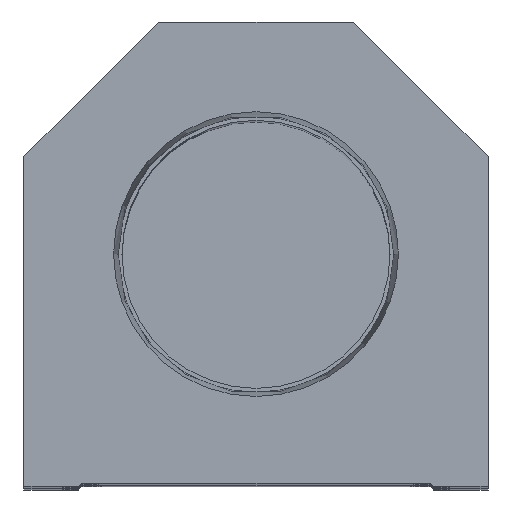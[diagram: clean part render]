
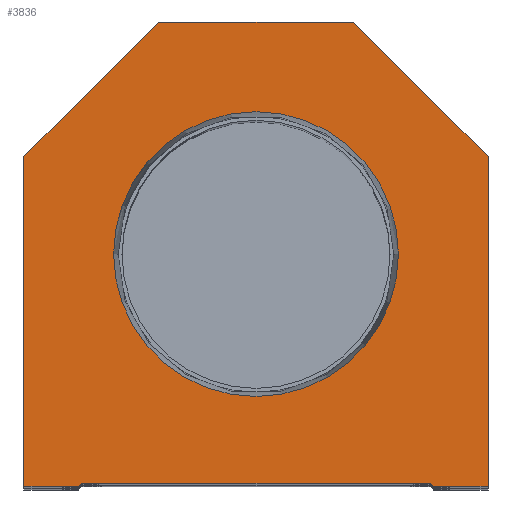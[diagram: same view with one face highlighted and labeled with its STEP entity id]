
A CAD part, top view. The second image highlights one B-rep face of the part: STEP entity #3836.
In plain terms, the highlighted planar face has unit normal (0, 0, 1).
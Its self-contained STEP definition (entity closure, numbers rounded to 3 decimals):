
#65 = VERTEX_POINT ( 'NONE', #6332 ) ;
#252 = EDGE_CURVE ( 'NONE', #2877, #14983, #7431, .T. ) ;
#339 = DIRECTION ( 'NONE',  ( 1., 0., 0. ) ) ;
#551 = CARTESIAN_POINT ( 'NONE',  ( -23.374, 38.1, 0. ) ) ;
#568 = CARTESIAN_POINT ( 'NONE',  ( 38.1, 54.1, 0. ) ) ;
#589 = LINE ( 'NONE', #3680, #20917 ) ;
#660 = ORIENTED_EDGE ( 'NONE', *, *, #252, .T. ) ;
#1237 = AXIS2_PLACEMENT_3D ( 'NONE', #15659, #2322, #8996 ) ;
#1602 = PLANE ( 'NONE',  #3268 ) ;
#2113 = EDGE_CURVE ( 'NONE', #8901, #19720, #10854, .T. ) ;
#2189 = DIRECTION ( 'NONE',  ( -1., 0., 0. ) ) ;
#2210 = VERTEX_POINT ( 'NONE', #21023 ) ;
#2236 = VECTOR ( 'NONE', #2189, 1000. ) ;
#2322 = DIRECTION ( 'NONE',  ( 0., 0., 1. ) ) ;
#2443 = ORIENTED_EDGE ( 'NONE', *, *, #4622, .T. ) ;
#2877 = VERTEX_POINT ( 'NONE', #5108 ) ;
#3032 = VECTOR ( 'NONE', #14063, 1000. ) ;
#3143 = FACE_BOUND ( 'NONE', #16087, .T. ) ;
#3238 = VERTEX_POINT ( 'NONE', #551 ) ;
#3258 = LINE ( 'NONE', #15383, #10656 ) ;
#3268 = AXIS2_PLACEMENT_3D ( 'NONE', #16358, #21773, #8158 ) ;
#3296 = LINE ( 'NONE', #20182, #11520 ) ;
#3332 = CARTESIAN_POINT ( 'NONE',  ( 38.1, 0., 0. ) ) ;
#3367 = CIRCLE ( 'NONE', #1237, 23.374 ) ;
#3464 = CARTESIAN_POINT ( 'NONE',  ( 28.6, 0.5, 0. ) ) ;
#3469 = DIRECTION ( 'NONE',  ( 1., 0., 0. ) ) ;
#3680 = CARTESIAN_POINT ( 'NONE',  ( -28.6, 0.5, 0. ) ) ;
#3836 = ADVANCED_FACE ( 'NONE', ( #3143, #11396 ), #1602, .T. ) ;
#4078 = VERTEX_POINT ( 'NONE', #20008 ) ;
#4124 = DIRECTION ( 'NONE',  ( 0.707, -0.707, 0. ) ) ;
#4163 = EDGE_LOOP ( 'NONE', ( #2443, #11064, #9628, #8359, #8391, #16019, #8807, #660, #8332, #5054 ) ) ;
#4374 = VECTOR ( 'NONE', #339, 1000. ) ;
#4622 = EDGE_CURVE ( 'NONE', #4078, #6295, #3258, .T. ) ;
#4691 = EDGE_CURVE ( 'NONE', #2210, #8901, #589, .T. ) ;
#4809 = DIRECTION ( 'NONE',  ( 0., 0., 1. ) ) ;
#4924 = DIRECTION ( 'NONE',  ( 1., 0., 0. ) ) ;
#5054 = ORIENTED_EDGE ( 'NONE', *, *, #7457, .T. ) ;
#5108 = CARTESIAN_POINT ( 'NONE',  ( 16., 76.2, 0. ) ) ;
#5204 = LINE ( 'NONE', #11840, #19870 ) ;
#5561 = LINE ( 'NONE', #13755, #10477 ) ;
#5591 = CARTESIAN_POINT ( 'NONE',  ( -29.1, 0., 0. ) ) ;
#5867 = CARTESIAN_POINT ( 'NONE',  ( -38.1, 54.1, 0. ) ) ;
#6088 = CARTESIAN_POINT ( 'NONE',  ( 14.55, 14.55, 0. ) ) ;
#6287 = EDGE_CURVE ( 'NONE', #65, #3238, #3367, .T. ) ;
#6295 = VERTEX_POINT ( 'NONE', #5591 ) ;
#6332 = CARTESIAN_POINT ( 'NONE',  ( 23.374, 38.1, 0. ) ) ;
#7431 = LINE ( 'NONE', #10421, #2236 ) ;
#7457 = EDGE_CURVE ( 'NONE', #18308, #4078, #5204, .T. ) ;
#8158 = DIRECTION ( 'NONE',  ( 1., 0., 0. ) ) ;
#8332 = ORIENTED_EDGE ( 'NONE', *, *, #14160, .T. ) ;
#8345 = LINE ( 'NONE', #3332, #14717 ) ;
#8359 = ORIENTED_EDGE ( 'NONE', *, *, #2113, .T. ) ;
#8391 = ORIENTED_EDGE ( 'NONE', *, *, #8596, .T. ) ;
#8596 = EDGE_CURVE ( 'NONE', #19720, #13140, #10473, .T. ) ;
#8807 = ORIENTED_EDGE ( 'NONE', *, *, #14108, .T. ) ;
#8901 = VERTEX_POINT ( 'NONE', #3464 ) ;
#8920 = ORIENTED_EDGE ( 'NONE', *, *, #19538, .F. ) ;
#8996 = DIRECTION ( 'NONE',  ( 1., 0., 0. ) ) ;
#9527 = EDGE_CURVE ( 'NONE', #6295, #2210, #20608, .T. ) ;
#9628 = ORIENTED_EDGE ( 'NONE', *, *, #4691, .T. ) ;
#10200 = AXIS2_PLACEMENT_3D ( 'NONE', #11558, #4809, #4924 ) ;
#10421 = CARTESIAN_POINT ( 'NONE',  ( 16., 76.2, 0. ) ) ;
#10473 = LINE ( 'NONE', #17119, #4374 ) ;
#10477 = VECTOR ( 'NONE', #10537, 1000. ) ;
#10537 = DIRECTION ( 'NONE',  ( -0.707, -0.707, 0. ) ) ;
#10595 = CARTESIAN_POINT ( 'NONE',  ( 29.1, 0., 0. ) ) ;
#10656 = VECTOR ( 'NONE', #3469, 1000. ) ;
#10854 = LINE ( 'NONE', #6088, #19813 ) ;
#11064 = ORIENTED_EDGE ( 'NONE', *, *, #9527, .T. ) ;
#11396 = FACE_OUTER_BOUND ( 'NONE', #4163, .T. ) ;
#11520 = VECTOR ( 'NONE', #18507, 1000. ) ;
#11558 = CARTESIAN_POINT ( 'NONE',  ( 0., 38.1, 0. ) ) ;
#11840 = CARTESIAN_POINT ( 'NONE',  ( -38.1, 0., 0. ) ) ;
#11845 = CARTESIAN_POINT ( 'NONE',  ( -16., 76.2, 0. ) ) ;
#13140 = VERTEX_POINT ( 'NONE', #19026 ) ;
#13722 = DIRECTION ( 'NONE',  ( 0., -1., 0. ) ) ;
#13755 = CARTESIAN_POINT ( 'NONE',  ( -38.1, 54.1, 0. ) ) ;
#14063 = DIRECTION ( 'NONE',  ( 0.707, 0.707, 0. ) ) ;
#14108 = EDGE_CURVE ( 'NONE', #19690, #2877, #3296, .T. ) ;
#14160 = EDGE_CURVE ( 'NONE', #14983, #18308, #5561, .T. ) ;
#14717 = VECTOR ( 'NONE', #15558, 1000. ) ;
#14983 = VERTEX_POINT ( 'NONE', #11845 ) ;
#15383 = CARTESIAN_POINT ( 'NONE',  ( -28.6, 0., 0. ) ) ;
#15558 = DIRECTION ( 'NONE',  ( 0., 1., 0. ) ) ;
#15659 = CARTESIAN_POINT ( 'NONE',  ( 0., 38.1, 0. ) ) ;
#16019 = ORIENTED_EDGE ( 'NONE', *, *, #18055, .T. ) ;
#16087 = EDGE_LOOP ( 'NONE', ( #18355, #8920 ) ) ;
#16358 = CARTESIAN_POINT ( 'NONE',  ( 0., 0., 0. ) ) ;
#17119 = CARTESIAN_POINT ( 'NONE',  ( 28.6, 0., 0. ) ) ;
#18055 = EDGE_CURVE ( 'NONE', #13140, #19690, #8345, .T. ) ;
#18308 = VERTEX_POINT ( 'NONE', #5867 ) ;
#18355 = ORIENTED_EDGE ( 'NONE', *, *, #6287, .F. ) ;
#18507 = DIRECTION ( 'NONE',  ( -0.707, 0.707, 0. ) ) ;
#18936 = CARTESIAN_POINT ( 'NONE',  ( -14.55, 14.55, 0. ) ) ;
#19026 = CARTESIAN_POINT ( 'NONE',  ( 38.1, 0., 0. ) ) ;
#19142 = DIRECTION ( 'NONE',  ( 1., 0., 0. ) ) ;
#19538 = EDGE_CURVE ( 'NONE', #3238, #65, #20105, .T. ) ;
#19690 = VERTEX_POINT ( 'NONE', #568 ) ;
#19720 = VERTEX_POINT ( 'NONE', #10595 ) ;
#19813 = VECTOR ( 'NONE', #4124, 1000. ) ;
#19870 = VECTOR ( 'NONE', #13722, 1000. ) ;
#20008 = CARTESIAN_POINT ( 'NONE',  ( -38.1, 0., 0. ) ) ;
#20105 = CIRCLE ( 'NONE', #10200, 23.374 ) ;
#20182 = CARTESIAN_POINT ( 'NONE',  ( 38.1, 54.1, 0. ) ) ;
#20608 = LINE ( 'NONE', #18936, #3032 ) ;
#20917 = VECTOR ( 'NONE', #19142, 1000. ) ;
#21023 = CARTESIAN_POINT ( 'NONE',  ( -28.6, 0.5, 0. ) ) ;
#21773 = DIRECTION ( 'NONE',  ( 0., 0., 1. ) ) ;
